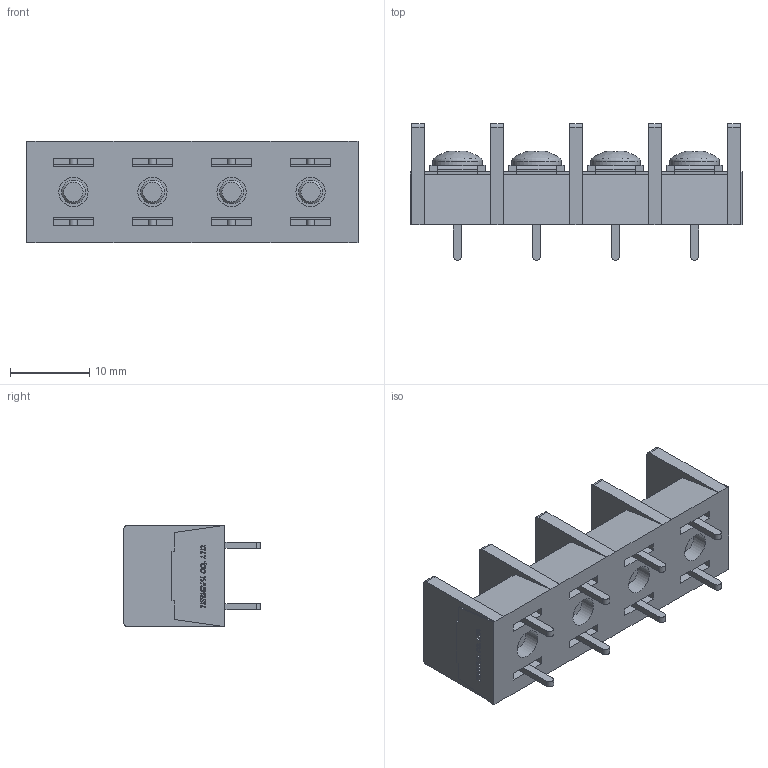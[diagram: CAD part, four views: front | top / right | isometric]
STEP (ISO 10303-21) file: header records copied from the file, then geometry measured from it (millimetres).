
FILE_DESCRIPTION(/* description */ ('Alibre Inc.'),/* implementation_level */ '2;1');
FILE_NAME(/* name */ 'export0',/* time_stamp */ '2015-10-23T18:01:08+09:00',/* author */ (''),/* organization */ (''),/* preprocessor_version */ 'ST-DEVELOPER v14',/* originating_system */ 'Alibre',/* authorisation */ '');
FILE_SCHEMA (('CONFIG_CONTROL_DESIGN'));
Length unit declared in the file: centimetre
Products named in the file (1): ID_1
Bounding box: 42 x 17.3 x 12.8 mm (x, y, z)
Volume: 3963 mm3; surface area: 4751.3 mm2
Topology: 1 solids, 69 shells, 1530 faces, 3948 edges, 2612 vertices
Faces by surface type: plane 1140, bspline 312, cylinder 46, cone 20, torus 8, sphere 4
Full cylindrical faces by diameter (mm): 3 x8, 3.7 x4, 4.6 x4, 6.3 x4
Entity records: 44433 total; most frequent: CARTESIAN_POINT 10825, ORIENTED_EDGE 7824, DIRECTION 4580, EDGE_CURVE 3912, VECTOR 3022, LINE 3022, VERTEX_POINT 2608, EDGE_LOOP 1674
